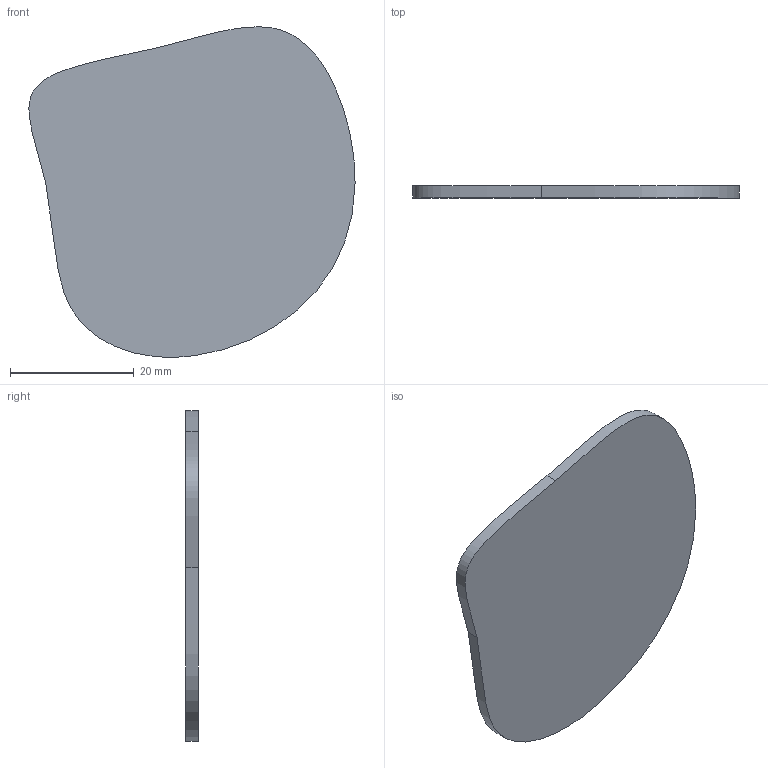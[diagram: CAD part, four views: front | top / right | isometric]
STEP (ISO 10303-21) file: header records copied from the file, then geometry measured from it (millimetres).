
FILE_DESCRIPTION(/* description */ ('STEP AP242 Edition 2','CAx-IF Rec.Pracs.---Representation and Presentation of Product Manufacturing Information (PMI)---4.0---2014-10-13','CAx-IF Rec.Pracs.---3D Tessellated Geometry---0.4---2014-09-14','2;1','CAx-IF Rec.Pracs.---User Defined Attributes---1.5---2016-08-15'),/* implementation_level */ '2;1');
FILE_NAME(/* name */ 'main - Part 30 - bottom right fresnel',/* time_stamp */ '2026-11-08T20:03:44Z',/* author */ (''),/* organization */ (''),/* preprocessor_version */ 'ST-DEVELOPER v20',/* originating_system */ 'ONSHAPE BY PTC INC, 1.223',/* authorisation */ ' ');
FILE_SCHEMA (('AP242_MANAGED_MODEL_BASED_3D_ENGINEERING_MIM_LF { 1 0 10303 442 3 1 4 }'));
Length unit declared in the file: metre
Products named in the file (1): Part 30 - bottom right fresnel
Bounding box: 52.73 x 2 x 53.47 mm (x, y, z)
Volume: 4438.5 mm3; surface area: 4781.9 mm2
Topology: 1 solids, 1 shells, 6 faces, 12 edges, 8 vertices
Faces by surface type: bspline 4, plane 2
Entity records: 246 total; most frequent: CARTESIAN_POINT 123, ORIENTED_EDGE 24, EDGE_CURVE 12, DIRECTION 10, VERTEX_POINT 8, B_SPLINE_CURVE_WITH_KNOTS 8, EDGE_LOOP 6, FACE_BOUND 6
